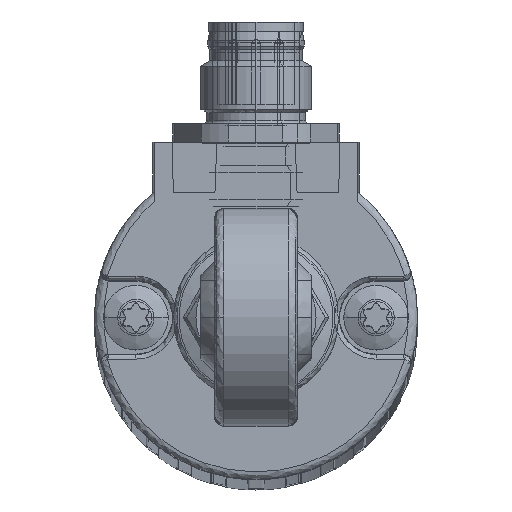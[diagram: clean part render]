
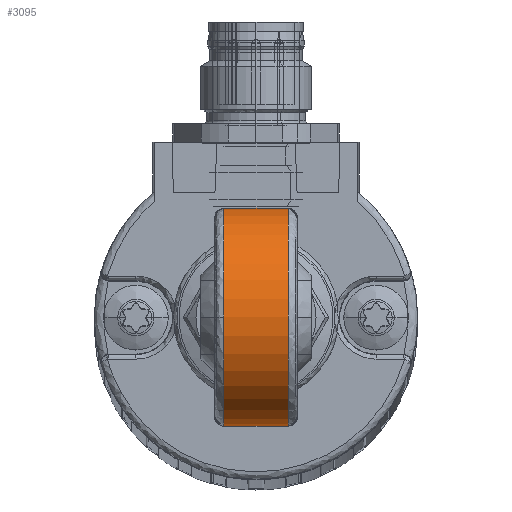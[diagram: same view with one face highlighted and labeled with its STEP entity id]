
A CAD part, top view. The second image highlights one B-rep face of the part: STEP entity #3095.
In plain terms, the highlighted cylindrical face has radius 11.8 mm (diameter 23.6 mm), a partial arc.
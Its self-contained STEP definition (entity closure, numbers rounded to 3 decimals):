
#2935 = VERTEX_POINT ( 'NONE', #19175 ) ;
#2936 = VERTEX_POINT ( 'NONE', #19174 ) ;
#2937 = EDGE_CURVE ( 'NONE', #2936, #2935, #19173, .T. ) ;
#3082 = EDGE_CURVE ( 'NONE', #2936, #3090, #20011, .T. ) ;
#3083 = ORIENTED_EDGE ( 'NONE', *, *, #3082, .T. ) ;
#3084 = ORIENTED_EDGE ( 'NONE', *, *, #2937, .F. ) ;
#3085 = EDGE_CURVE ( 'NONE', #3087, #2935, #20007, .T. ) ;
#3086 = ORIENTED_EDGE ( 'NONE', *, *, #3085, .T. ) ;
#3087 = VERTEX_POINT ( 'NONE', #20003 ) ;
#3088 = EDGE_CURVE ( 'NONE', #3087, #3091, #20002, .T. ) ;
#3089 = ORIENTED_EDGE ( 'NONE', *, *, #3088, .F. ) ;
#3090 = VERTEX_POINT ( 'NONE', #19997 ) ;
#3091 = VERTEX_POINT ( 'NONE', #19996 ) ;
#3092 = EDGE_CURVE ( 'NONE', #3091, #3090, #19995, .T. ) ;
#3093 = ORIENTED_EDGE ( 'NONE', *, *, #3092, .F. ) ;
#3094 = EDGE_LOOP ( 'NONE', ( #3093, #3089, #3086, #3084, #3083 ) ) ;
#3095 = ADVANCED_FACE ( 'NONE', ( #19990 ), #20050, .T. ) ;
#19169 = DIRECTION ( 'NONE',  ( 0., 1., 0. ) ) ;
#19170 = DIRECTION ( 'NONE',  ( 1., 0., 0. ) ) ;
#19171 = CARTESIAN_POINT ( 'NONE',  ( 3.608, 0.215, 683.85 ) ) ;
#19172 = AXIS2_PLACEMENT_3D ( 'NONE', #19171, #19170, #19169 ) ;
#19173 = CIRCLE ( 'NONE', #19172, 11.8 ) ;
#19174 = CARTESIAN_POINT ( 'NONE',  ( 3.608, 9.591, 676.686 ) ) ;
#19175 = CARTESIAN_POINT ( 'NONE',  ( 3.608, -9.161, 676.686 ) ) ;
#19990 = FACE_OUTER_BOUND ( 'NONE', #3094, .T. ) ;
#19991 = DIRECTION ( 'NONE',  ( 0., 0., -1. ) ) ;
#19992 = DIRECTION ( 'NONE',  ( -1., 0., 0. ) ) ;
#19993 = CARTESIAN_POINT ( 'NONE',  ( -3.392, 0.215, 683.85 ) ) ;
#19994 = AXIS2_PLACEMENT_3D ( 'NONE', #19993, #19992, #19991 ) ;
#19995 = CIRCLE ( 'NONE', #19994, 11.8 ) ;
#19996 = CARTESIAN_POINT ( 'NONE',  ( -3.392, 0.215, 695.65 ) ) ;
#19997 = CARTESIAN_POINT ( 'NONE',  ( -3.392, 9.591, 676.686 ) ) ;
#19998 = DIRECTION ( 'NONE',  ( 0., 0., -1. ) ) ;
#19999 = DIRECTION ( 'NONE',  ( -1., 0., 0. ) ) ;
#20000 = CARTESIAN_POINT ( 'NONE',  ( -3.392, 0.215, 683.85 ) ) ;
#20001 = AXIS2_PLACEMENT_3D ( 'NONE', #20000, #19999, #19998 ) ;
#20002 = CIRCLE ( 'NONE', #20001, 11.8 ) ;
#20003 = CARTESIAN_POINT ( 'NONE',  ( -3.392, -9.161, 676.686 ) ) ;
#20004 = DIRECTION ( 'NONE',  ( 1., 0., 0. ) ) ;
#20005 = VECTOR ( 'NONE', #20004, 1000. ) ;
#20006 = CARTESIAN_POINT ( 'NONE',  ( 0.108, -9.161, 676.686 ) ) ;
#20007 = LINE ( 'NONE', #20006, #20005 ) ;
#20008 = DIRECTION ( 'NONE',  ( -1., 0., 0. ) ) ;
#20009 = VECTOR ( 'NONE', #20008, 1000. ) ;
#20010 = CARTESIAN_POINT ( 'NONE',  ( 0.108, 9.591, 676.686 ) ) ;
#20011 = LINE ( 'NONE', #20010, #20009 ) ;
#20046 = DIRECTION ( 'NONE',  ( 0., 0., -1. ) ) ;
#20047 = DIRECTION ( 'NONE',  ( 1., 0., 0. ) ) ;
#20048 = AXIS2_PLACEMENT_3D ( 'NONE', #20049, #20047, #20046 ) ;
#20049 = CARTESIAN_POINT ( 'NONE',  ( -3.392, 0.215, 683.85 ) ) ;
#20050 = CYLINDRICAL_SURFACE ( 'NONE', #20048, 11.8 ) ;
